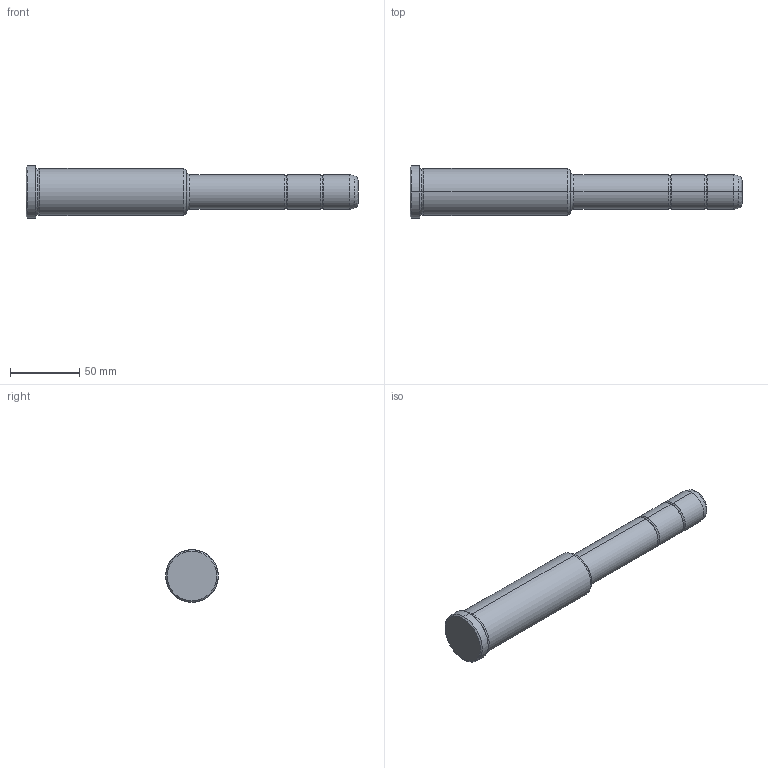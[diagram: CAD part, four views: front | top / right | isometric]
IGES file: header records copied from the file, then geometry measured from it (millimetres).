
Start section: START RECORD GO HERE.
Global section: file name: 351-25X116X240.igs; native system: DASSAULT SYSTEMES CATIA V5 R20 - www.3ds.com; preprocessor: CATIA Version 5 Release 20 ; author: Utente; organization: NB04-ASUS; date: 20210907.135235; units: millimetre
Bounding box: 240 x 38 x 38 mm (x, y, z)
Surface area: 24175.6 mm2 (no closed solid volume)
Topology: 0 solids, 0 shells, 36 faces, 204 edges, 204 vertices
Faces by surface type: revolution 32, plane 4
